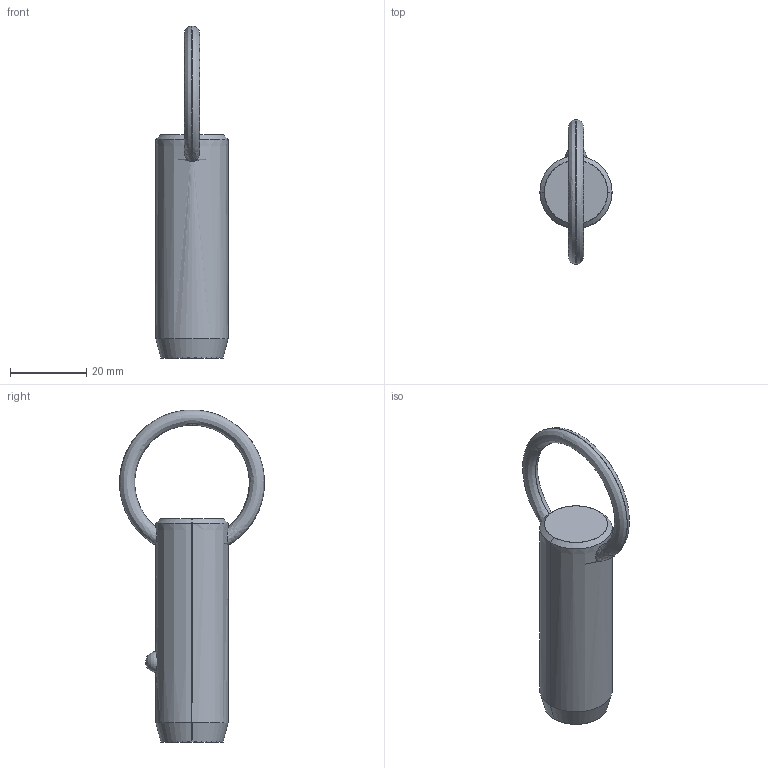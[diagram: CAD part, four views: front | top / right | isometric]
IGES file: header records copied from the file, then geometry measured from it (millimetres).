
Start section: SolidWorks IGES file using analytic representation for surfaces
Global section: file name: C:\Users\liam_\OneDrive\Documents\WORK\Work for WixRoyd\Job Files\J-00019 - Matt Davis CAD Checking\04. CAD Drawings\automotion20190605\P1250.2_v2\P1250.2_v2_20190729_IGES\P1250.075-100.igs; native system: SolidWorks 2017; preprocessor: SolidWorks 2017; author: liam_; date: 190729.234635; units: millimetre
Bounding box: 19 x 38.09 x 87.19 mm (x, y, z)
Surface area: 5030.7 mm2 (no closed solid volume)
Topology: 0 solids, 0 shells, 12 faces, 294 edges, 292 vertices
Faces by surface type: revolution 8, bspline 4
